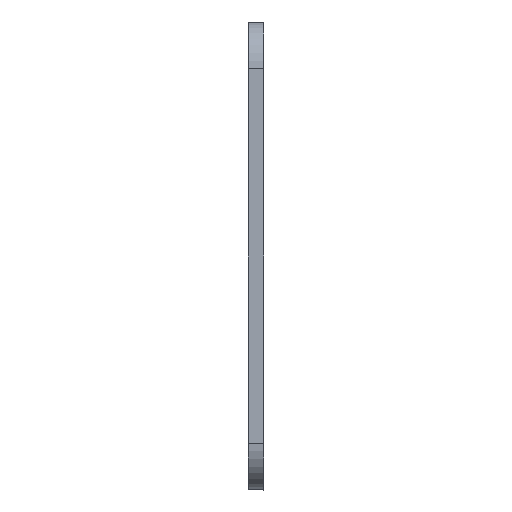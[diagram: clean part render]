
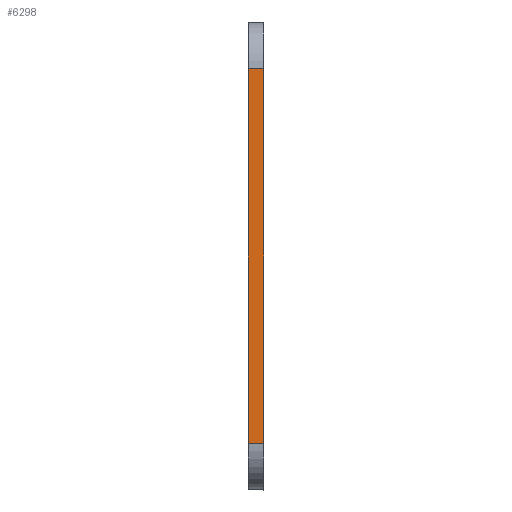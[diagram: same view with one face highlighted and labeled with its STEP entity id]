
A CAD part, left-side view. The second image highlights one B-rep face of the part: STEP entity #6298.
In plain terms, the highlighted planar face has unit normal (-1, 0, 0).
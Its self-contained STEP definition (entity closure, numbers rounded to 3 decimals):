
#127 = EDGE_CURVE ( 'NONE', #914, #673, #3170, .T. ) ;
#194 = ORIENTED_EDGE ( 'NONE', *, *, #6877, .F. ) ;
#353 = DIRECTION ( 'NONE',  ( 1., 0., 0. ) ) ;
#390 = CARTESIAN_POINT ( 'NONE',  ( -114., 1., 25. ) ) ;
#661 = DIRECTION ( 'NONE',  ( 0., 0., 1. ) ) ;
#673 = VERTEX_POINT ( 'NONE', #7535 ) ;
#734 = LINE ( 'NONE', #3800, #3489 ) ;
#878 = FACE_OUTER_BOUND ( 'NONE', #4302, .T. ) ;
#914 = VERTEX_POINT ( 'NONE', #2881 ) ;
#1340 = AXIS2_PLACEMENT_3D ( 'NONE', #390, #353, #2197 ) ;
#1825 = DIRECTION ( 'NONE',  ( 0., -1., 0. ) ) ;
#1988 = CARTESIAN_POINT ( 'NONE',  ( -114., -1., 25. ) ) ;
#2197 = DIRECTION ( 'NONE',  ( 0., -1., 0. ) ) ;
#2213 = VECTOR ( 'NONE', #4896, 1000. ) ;
#2505 = CARTESIAN_POINT ( 'NONE',  ( -114., 1., 25. ) ) ;
#2881 = CARTESIAN_POINT ( 'NONE',  ( -114., 1., -23. ) ) ;
#3170 = LINE ( 'NONE', #5688, #6231 ) ;
#3339 = PLANE ( 'NONE',  #1340 ) ;
#3489 = VECTOR ( 'NONE', #1825, 1000. ) ;
#3502 = VECTOR ( 'NONE', #661, 1000. ) ;
#3600 = EDGE_CURVE ( 'NONE', #673, #6787, #7349, .T. ) ;
#3800 = CARTESIAN_POINT ( 'NONE',  ( -114., 1., 25. ) ) ;
#4302 = EDGE_LOOP ( 'NONE', ( #7481, #194, #6033, #7318 ) ) ;
#4670 = VERTEX_POINT ( 'NONE', #6266 ) ;
#4896 = DIRECTION ( 'NONE',  ( 0., 0., 1. ) ) ;
#5448 = LINE ( 'NONE', #2505, #2213 ) ;
#5469 = EDGE_CURVE ( 'NONE', #914, #4670, #5448, .T. ) ;
#5688 = CARTESIAN_POINT ( 'NONE',  ( -114., 1., -23. ) ) ;
#6033 = ORIENTED_EDGE ( 'NONE', *, *, #5469, .F. ) ;
#6231 = VECTOR ( 'NONE', #6870, 1000. ) ;
#6266 = CARTESIAN_POINT ( 'NONE',  ( -114., 1., 25. ) ) ;
#6298 = ADVANCED_FACE ( 'NONE', ( #878 ), #3339, .F. ) ;
#6787 = VERTEX_POINT ( 'NONE', #1988 ) ;
#6870 = DIRECTION ( 'NONE',  ( 0., -1., 0. ) ) ;
#6877 = EDGE_CURVE ( 'NONE', #4670, #6787, #734, .T. ) ;
#7314 = CARTESIAN_POINT ( 'NONE',  ( -114., -1., 25. ) ) ;
#7318 = ORIENTED_EDGE ( 'NONE', *, *, #127, .T. ) ;
#7349 = LINE ( 'NONE', #7314, #3502 ) ;
#7481 = ORIENTED_EDGE ( 'NONE', *, *, #3600, .T. ) ;
#7535 = CARTESIAN_POINT ( 'NONE',  ( -114., -1., -23. ) ) ;
